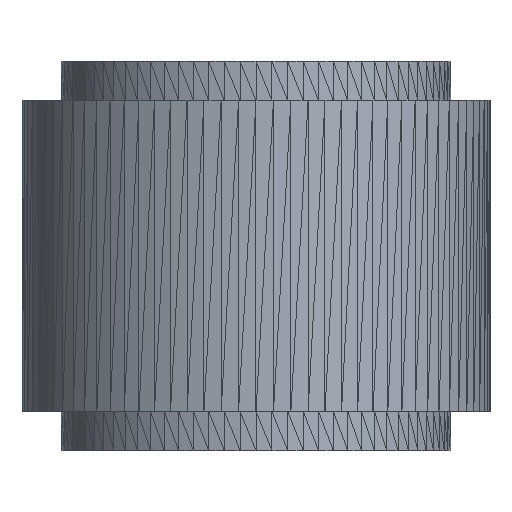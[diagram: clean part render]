
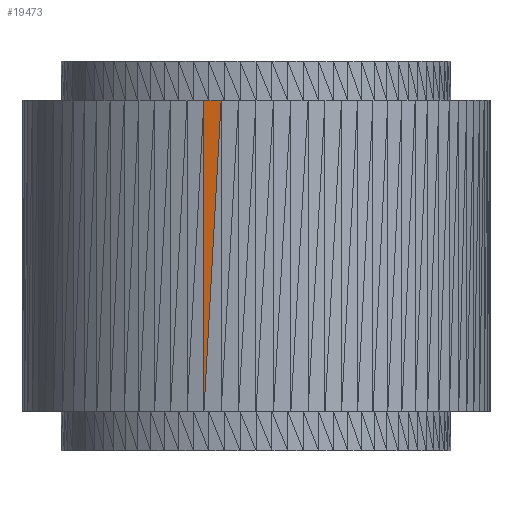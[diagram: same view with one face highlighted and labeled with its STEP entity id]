
A CAD part, left-side view. The second image highlights one B-rep face of the part: STEP entity #19473.
In plain terms, the highlighted planar face has unit normal (-0.983, 0.186, 0).
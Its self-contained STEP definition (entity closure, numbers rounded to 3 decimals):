
#333=FACE_OUTER_BOUND('',#2073,.T.);
#2073=EDGE_LOOP('',(#13149,#13150,#13151));
#4052=LINE('',#29857,#6662);
#4053=LINE('',#29860,#6663);
#4054=LINE('',#29861,#6664);
#6662=VECTOR('',#23844,10.);
#6663=VECTOR('',#23847,10.);
#6664=VECTOR('',#23848,10.);
#8949=VERTEX_POINT('',#29825);
#8954=VERTEX_POINT('',#29853);
#8955=VERTEX_POINT('',#29859);
#10142=EDGE_CURVE('',#8954,#8949,#4052,.T.);
#10143=EDGE_CURVE('',#8949,#8955,#4053,.T.);
#10144=EDGE_CURVE('',#8954,#8955,#4054,.T.);
#13149=ORIENTED_EDGE('',*,*,#10143,.F.);
#13150=ORIENTED_EDGE('',*,*,#10142,.F.);
#13151=ORIENTED_EDGE('',*,*,#10144,.T.);
#17733=PLANE('',#21227);
#19473=ADVANCED_FACE('',(#333),#17733,.T.);
#21227=AXIS2_PLACEMENT_3D('',#29858,#23845,#23846);
#23844=DIRECTION('',(0.01,0.055,-0.998));
#23845=DIRECTION('center_axis',(-0.983,0.186,0.));
#23846=DIRECTION('ref_axis',(0.,0.,1.));
#23847=DIRECTION('',(0.,0.,1.));
#23848=DIRECTION('',(0.186,0.983,0.));
#29825=CARTESIAN_POINT('',(-292.478,66.756,-198.961));
#29853=CARTESIAN_POINT('',(-296.649,44.713,200.));
#29857=CARTESIAN_POINT('',(-296.649,44.713,200.));
#29858=CARTESIAN_POINT('Origin',(-296.649,44.713,200.));
#29859=CARTESIAN_POINT('',(-292.478,66.756,200.));
#29860=CARTESIAN_POINT('',(-292.478,66.756,-198.961));
#29861=CARTESIAN_POINT('',(-296.649,44.713,200.));
